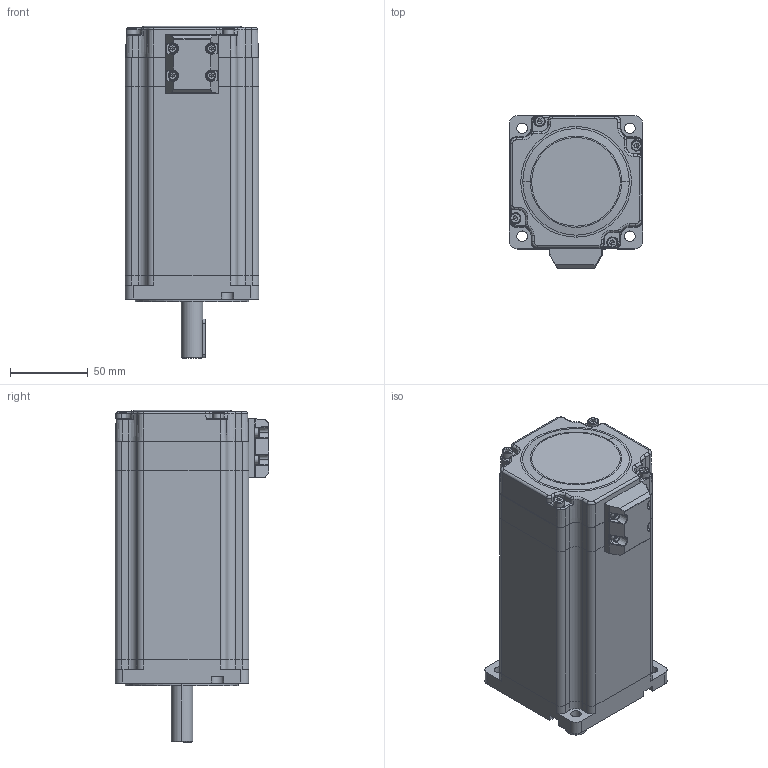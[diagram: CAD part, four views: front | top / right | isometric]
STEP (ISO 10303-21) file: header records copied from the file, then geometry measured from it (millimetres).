
FILE_DESCRIPTION (( 'STEP AP203' ), '1' );
FILE_NAME ('86J18156EC-1000-LS-01.STEP', '2022-07-06T08:10:02', ( 'USER-' ), ( 'MS' ), 'SwSTEP 2.0', 'SolidWorks 2018', '' );
FILE_SCHEMA (( 'CONFIG_CONTROL_DESIGN' ));
Length unit declared in the file: millimetre
Products named in the file (10): 86J18156EC-1000-LS-01; ____-0^86J1880EC-1000-LS-14K(2)_86J1880EC-1000-LS-14K; 86LS______^86J1880EC-1000-LS-14K(2)_86J1880EC-1000-LS-14K; 86__________^86J1880EC-1000-LS-14K(2)_86J1880EC-1000-LS-14K; hexagon socket head cap screws gb_GB_FASTENER_SCREWS_HSHCS M3X10-S^86J1880EC-1000-LS-14K(2)_86J1880EC-1000-LS-14K; hexagon socket head cap screws gb_GB_FASTENER_SCREWS_HSHCS M4X40-S^86J1880EC-1000-LS-14K(2)_86J1880EC-1000-LS-14K; 86____-73____ 14______^86J1880EC-1000-LS-14K(2)_86J1880EC-1000-LS-14K; Dia14x60x5__ __^86J1880EC-1000-LS-14K(2)_86J1880EC-1000-LS-14K; 86 25mmkey^86J1880EC-1000-LS-14K(2)_86J1880EC-1000-LS-14K; ____^86J1880EC-1000-LS-14K(2)_86J1880EC-1000-LS-14K
Assembly tree (15 placements, depth 2):
  86J18156EC-1000-LS-01
    ____^86J1880EC-1000-LS-14K(2)_86J1880EC-1000-LS-14K
    ____-0^86J1880EC-1000-LS-14K(2)_86J1880EC-1000-LS-14K
    86LS______^86J1880EC-1000-LS-14K(2)_86J1880EC-1000-LS-14K
    86__________^86J1880EC-1000-LS-14K(2)_86J1880EC-1000-LS-14K
    hexagon socket head cap screws gb_GB_FASTENER_SCREWS_HSHCS M3X10-S^86J1880EC-1000-LS-14K(2)_86J1880EC-1000-LS-14K  x4
    hexagon socket head cap screws gb_GB_FASTENER_SCREWS_HSHCS M4X40-S^86J1880EC-1000-LS-14K(2)_86J1880EC-1000-LS-14K  x4
    86____-73____ 14______^86J1880EC-1000-LS-14K(2)_86J1880EC-1000-LS-14K
    Dia14x60x5__ __^86J1880EC-1000-LS-14K(2)_86J1880EC-1000-LS-14K
    86 25mmkey^86J1880EC-1000-LS-14K(2)_86J1880EC-1000-LS-14K
Bounding box: 86 x 99 x 214.07 mm (x, y, z)
Volume: 1088199.2 mm3; surface area: 140601.2 mm2
Topology: 15 solids, 15 shells, 2577 faces, 5808 edges, 3267 vertices
Faces by surface type: cone 1304, cylinder 841, plane 291, bspline 83, torus 44, sphere 14
Entity records: 38450 total; most frequent: CARTESIAN_POINT 12588, DIRECTION 5268, ORIENTED_EDGE 5132, EDGE_CURVE 2566, AXIS2_PLACEMENT_3D 2052, VERTEX_POINT 1515, VECTOR 1164, LINE 1164
